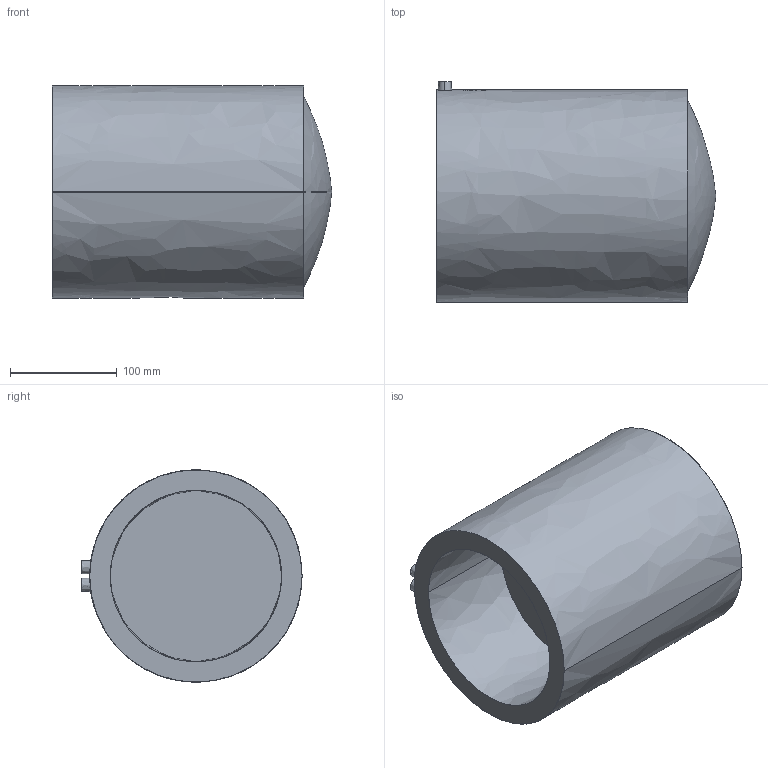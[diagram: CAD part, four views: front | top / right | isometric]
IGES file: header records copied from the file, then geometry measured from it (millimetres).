
Start section:  PTC IGES file: mv_d160.igs
Global section: file name: mv_d160.igs; native system: Pro/ENGINEER by Parametric Technology Corporation; preprocessor: 2006200; author: muellerc; organization: Unknown; date: 20061011.092804; units: millimetre
Bounding box: 262 x 206.4 x 199 mm (x, y, z)
Surface area: 260711.2 mm2 (no closed solid volume)
Topology: 0 solids, 0 shells, 53 faces, 262 edges, 260 vertices
Faces by surface type: bspline 53
